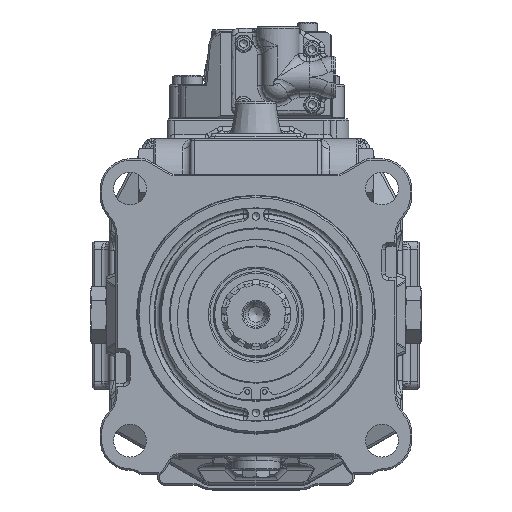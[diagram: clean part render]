
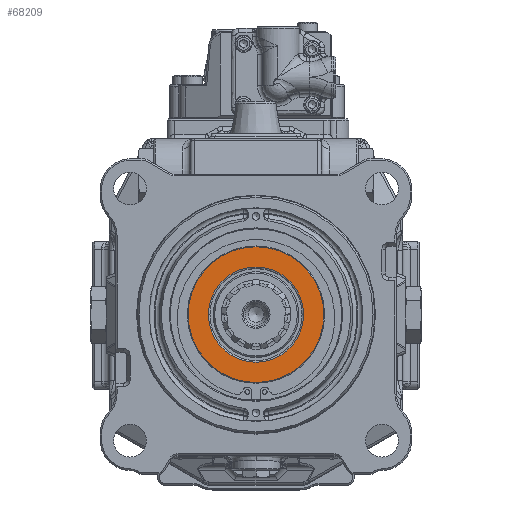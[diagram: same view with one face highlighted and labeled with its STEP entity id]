
A CAD part, top view. The second image highlights one B-rep face of the part: STEP entity #68209.
In plain terms, the highlighted planar face has unit normal (0, 0, 1).
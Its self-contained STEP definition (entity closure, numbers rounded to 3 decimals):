
#2635=FACE_BOUND('',#13691,.T.);
#9529=FACE_OUTER_BOUND('',#13690,.T.);
#13690=EDGE_LOOP('',(#53249));
#13691=EDGE_LOOP('',(#53250));
#17164=CIRCLE('',#73154,43.5);
#17165=CIRCLE('',#73156,30.5);
#31524=VERTEX_POINT('',#111907);
#31525=VERTEX_POINT('',#111911);
#39208=EDGE_CURVE('',#31524,#31524,#17164,.T.);
#39209=EDGE_CURVE('',#31525,#31525,#17165,.T.);
#53249=ORIENTED_EDGE('',*,*,#39208,.F.);
#53250=ORIENTED_EDGE('',*,*,#39209,.F.);
#65981=PLANE('',#73155);
#68209=ADVANCED_FACE('',(#9529,#2635),#65981,.T.);
#73154=AXIS2_PLACEMENT_3D('',#111909,#85296,#85297);
#73155=AXIS2_PLACEMENT_3D('',#111910,#85298,#85299);
#73156=AXIS2_PLACEMENT_3D('',#111912,#85300,#85301);
#85296=DIRECTION('center_axis',(0.,0.,
-1.));
#85297=DIRECTION('ref_axis',(0.,-1.,0.));
#85298=DIRECTION('center_axis',(0.,0.,
1.));
#85299=DIRECTION('ref_axis',(0.,-1.,0.));
#85300=DIRECTION('center_axis',(0.,0.,
1.));
#85301=DIRECTION('ref_axis',(0.,-1.,0.));
#111907=CARTESIAN_POINT('',(9.6,61.11,142.644));
#111909=CARTESIAN_POINT('Origin',(9.6,17.61,142.644));
#111910=CARTESIAN_POINT('Origin',(9.6,54.61,142.644));
#111911=CARTESIAN_POINT('',(9.6,-12.89,142.644));
#111912=CARTESIAN_POINT('Origin',(9.6,17.61,142.644));
